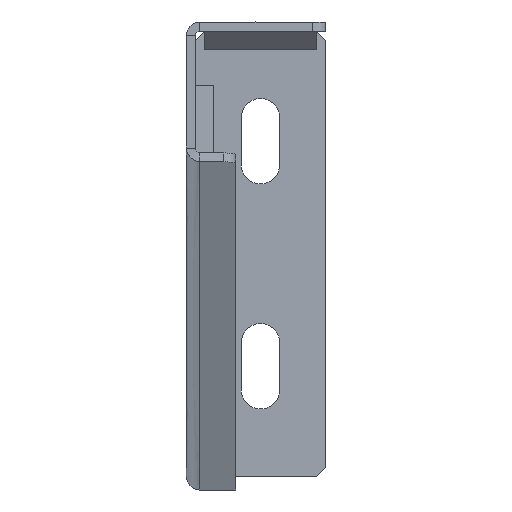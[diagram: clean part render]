
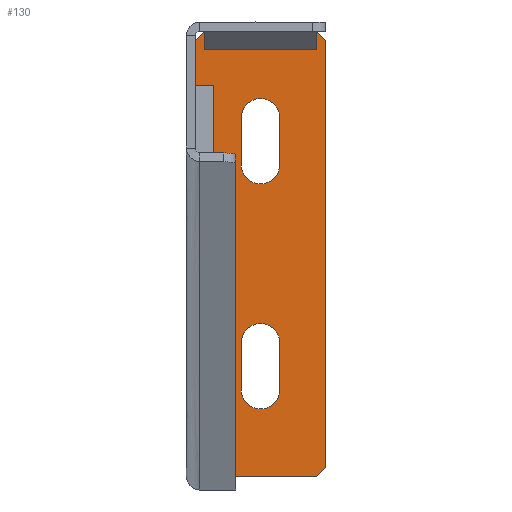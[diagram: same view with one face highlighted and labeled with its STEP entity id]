
A CAD part, front view. The second image highlights one B-rep face of the part: STEP entity #130.
In plain terms, the highlighted planar face has unit normal (0, -1, 0).
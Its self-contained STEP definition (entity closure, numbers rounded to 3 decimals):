
#21=FACE_BOUND('',#271,.T.);
#22=FACE_BOUND('',#272,.T.);
#31=(
BOUNDED_CURVE()
B_SPLINE_CURVE(2,(#1481,#1482,#1483,#1484,#1485),.UNSPECIFIED.,.F.,.F.)
B_SPLINE_CURVE_WITH_KNOTS((3,2,3),(37.204,43.879,50.555),
 .UNSPECIFIED.)
CURVE()
GEOMETRIC_REPRESENTATION_ITEM()
RATIONAL_B_SPLINE_CURVE((1.,0.707,1.,0.707,1.))
REPRESENTATION_ITEM('')
);
#32=(
BOUNDED_CURVE()
B_SPLINE_CURVE(2,(#1488,#1489,#1490,#1491,#1492),.UNSPECIFIED.,.F.,.F.)
B_SPLINE_CURVE_WITH_KNOTS((3,2,3),(13.352,20.028,26.704),
 .UNSPECIFIED.)
CURVE()
GEOMETRIC_REPRESENTATION_ITEM()
RATIONAL_B_SPLINE_CURVE((1.,0.707,1.,0.707,1.))
REPRESENTATION_ITEM('')
);
#35=(
BOUNDED_CURVE()
B_SPLINE_CURVE(2,(#1517,#1518,#1519,#1520,#1521),.UNSPECIFIED.,.F.,.F.)
B_SPLINE_CURVE_WITH_KNOTS((3,2,3),(37.204,43.879,50.555),
 .UNSPECIFIED.)
CURVE()
GEOMETRIC_REPRESENTATION_ITEM()
RATIONAL_B_SPLINE_CURVE((1.,0.707,1.,0.707,1.))
REPRESENTATION_ITEM('')
);
#36=(
BOUNDED_CURVE()
B_SPLINE_CURVE(2,(#1524,#1525,#1526,#1527,#1528),.UNSPECIFIED.,.F.,.F.)
B_SPLINE_CURVE_WITH_KNOTS((3,2,3),(13.352,20.028,26.704),
 .UNSPECIFIED.)
CURVE()
GEOMETRIC_REPRESENTATION_ITEM()
RATIONAL_B_SPLINE_CURVE((1.,0.707,1.,0.707,1.))
REPRESENTATION_ITEM('')
);
#130=ADVANCED_FACE('',(#199,#21,#22),#1039,.T.);
#199=FACE_OUTER_BOUND('',#270,.T.);
#270=EDGE_LOOP('',(#425,#426,#427,#428,#429,#430,#431,#432));
#271=EDGE_LOOP('',(#433,#434,#435,#436));
#272=EDGE_LOOP('',(#437,#438,#439,#440));
#425=ORIENTED_EDGE('',*,*,#674,.T.);
#426=ORIENTED_EDGE('',*,*,#678,.T.);
#427=ORIENTED_EDGE('',*,*,#681,.T.);
#428=ORIENTED_EDGE('',*,*,#684,.T.);
#429=ORIENTED_EDGE('',*,*,#687,.T.);
#430=ORIENTED_EDGE('',*,*,#690,.T.);
#431=ORIENTED_EDGE('',*,*,#693,.T.);
#432=ORIENTED_EDGE('',*,*,#695,.T.);
#433=ORIENTED_EDGE('',*,*,#703,.T.);
#434=ORIENTED_EDGE('',*,*,#702,.T.);
#435=ORIENTED_EDGE('',*,*,#701,.T.);
#436=ORIENTED_EDGE('',*,*,#700,.T.);
#437=ORIENTED_EDGE('',*,*,#715,.T.);
#438=ORIENTED_EDGE('',*,*,#714,.T.);
#439=ORIENTED_EDGE('',*,*,#713,.T.);
#440=ORIENTED_EDGE('',*,*,#712,.T.);
#674=EDGE_CURVE('',#934,#933,#835,.T.);
#678=EDGE_CURVE('',#933,#936,#839,.T.);
#681=EDGE_CURVE('',#936,#938,#842,.T.);
#684=EDGE_CURVE('',#938,#940,#845,.T.);
#687=EDGE_CURVE('',#940,#942,#848,.T.);
#690=EDGE_CURVE('',#942,#944,#851,.T.);
#693=EDGE_CURVE('',#944,#946,#854,.T.);
#695=EDGE_CURVE('',#946,#934,#856,.T.);
#700=EDGE_CURVE('',#951,#952,#859,.T.);
#701=EDGE_CURVE('',#953,#951,#31,.T.);
#702=EDGE_CURVE('',#954,#953,#860,.T.);
#703=EDGE_CURVE('',#952,#954,#32,.T.);
#712=EDGE_CURVE('',#959,#960,#867,.T.);
#713=EDGE_CURVE('',#961,#959,#35,.T.);
#714=EDGE_CURVE('',#962,#961,#868,.T.);
#715=EDGE_CURVE('',#960,#962,#36,.T.);
#835=B_SPLINE_CURVE_WITH_KNOTS('',1,(#1421,#1422),.UNSPECIFIED.,.F.,.F.,
(2,2),(-103.748,-100.919),.UNSPECIFIED.);
#839=B_SPLINE_CURVE_WITH_KNOTS('',1,(#1429,#1430),.UNSPECIFIED.,.F.,.F.,
(2,2),(-100.919,-2.081),.UNSPECIFIED.);
#842=B_SPLINE_CURVE_WITH_KNOTS('',1,(#1435,#1436),.UNSPECIFIED.,.F.,.F.,
(2,2),(-2.081,0.748),.UNSPECIFIED.);
#845=B_SPLINE_CURVE_WITH_KNOTS('',1,(#1441,#1442),.UNSPECIFIED.,.F.,.F.,
(2,2),(0.748,24.886),.UNSPECIFIED.);
#848=B_SPLINE_CURVE_WITH_KNOTS('',1,(#1447,#1448),.UNSPECIFIED.,.F.,.F.,
(2,2),(24.886,27.714),.UNSPECIFIED.);
#851=B_SPLINE_CURVE_WITH_KNOTS('',1,(#1453,#1454),.UNSPECIFIED.,.F.,.F.,
(2,2),(27.714,126.552),.UNSPECIFIED.);
#854=B_SPLINE_CURVE_WITH_KNOTS('',1,(#1459,#1460),.UNSPECIFIED.,.F.,.F.,
(2,2),(126.552,129.381),.UNSPECIFIED.);
#856=B_SPLINE_CURVE_WITH_KNOTS('',1,(#1463,#1464),.UNSPECIFIED.,.F.,.F.,
(2,2),(129.381,153.519),.UNSPECIFIED.);
#859=B_SPLINE_CURVE_WITH_KNOTS('',1,(#1479,#1480),.UNSPECIFIED.,.F.,.F.,
(2,2),(-79.75,-69.25),.UNSPECIFIED.);
#860=B_SPLINE_CURVE_WITH_KNOTS('',1,(#1486,#1487),.UNSPECIFIED.,.F.,.F.,
(2,2),(69.25,79.75),.UNSPECIFIED.);
#867=B_SPLINE_CURVE_WITH_KNOTS('',1,(#1515,#1516),.UNSPECIFIED.,.F.,.F.,
(2,2),(-29.75,-19.25),.UNSPECIFIED.);
#868=B_SPLINE_CURVE_WITH_KNOTS('',1,(#1522,#1523),.UNSPECIFIED.,.F.,.F.,
(2,2),(19.25,29.75),.UNSPECIFIED.);
#933=VERTEX_POINT('',#1387);
#934=VERTEX_POINT('',#1388);
#936=VERTEX_POINT('',#1390);
#938=VERTEX_POINT('',#1392);
#940=VERTEX_POINT('',#1394);
#942=VERTEX_POINT('',#1396);
#944=VERTEX_POINT('',#1398);
#946=VERTEX_POINT('',#1400);
#951=VERTEX_POINT('',#1405);
#952=VERTEX_POINT('',#1406);
#953=VERTEX_POINT('',#1407);
#954=VERTEX_POINT('',#1408);
#959=VERTEX_POINT('',#1413);
#960=VERTEX_POINT('',#1414);
#961=VERTEX_POINT('',#1415);
#962=VERTEX_POINT('',#1416);
#1039=PLANE('',#1176);
#1176=AXIS2_PLACEMENT_3D('',#1376,#1240,$);
#1240=DIRECTION('',(0.,-1.,0.));
#1376=CARTESIAN_POINT('',(36.376,-3.5,-47.256));
#1387=CARTESIAN_POINT('',(32.751,-3.5,-156.631));
#1388=CARTESIAN_POINT('',(30.751,-3.5,-158.631));
#1390=CARTESIAN_POINT('',(32.751,-3.5,-61.631));
#1392=CARTESIAN_POINT('',(30.751,-3.5,-59.631));
#1394=CARTESIAN_POINT('',(5.751,-3.5,-59.631));
#1396=CARTESIAN_POINT('',(3.751,-3.5,-61.631));
#1398=CARTESIAN_POINT('',(3.751,-3.5,-156.631));
#1400=CARTESIAN_POINT('',(5.751,-3.5,-158.631));
#1405=CARTESIAN_POINT('',(22.501,-3.5,-78.881));
#1406=CARTESIAN_POINT('',(22.501,-3.5,-89.381));
#1407=CARTESIAN_POINT('',(14.001,-3.5,-78.881));
#1408=CARTESIAN_POINT('',(14.001,-3.5,-89.381));
#1413=CARTESIAN_POINT('',(22.501,-3.5,-128.881));
#1414=CARTESIAN_POINT('',(22.501,-3.5,-139.381));
#1415=CARTESIAN_POINT('',(14.001,-3.5,-128.881));
#1416=CARTESIAN_POINT('',(14.001,-3.5,-139.381));
#1421=CARTESIAN_POINT('',(30.751,-3.5,-158.631));
#1422=CARTESIAN_POINT('',(32.751,-3.5,-156.631));
#1429=CARTESIAN_POINT('',(32.751,-3.5,-156.631));
#1430=CARTESIAN_POINT('',(32.751,-3.5,-61.631));
#1435=CARTESIAN_POINT('',(32.751,-3.5,-61.631));
#1436=CARTESIAN_POINT('',(30.751,-3.5,-59.631));
#1441=CARTESIAN_POINT('',(30.751,-3.5,-59.631));
#1442=CARTESIAN_POINT('',(5.751,-3.5,-59.631));
#1447=CARTESIAN_POINT('',(5.751,-3.5,-59.631));
#1448=CARTESIAN_POINT('',(3.751,-3.5,-61.631));
#1453=CARTESIAN_POINT('',(3.751,-3.5,-61.631));
#1454=CARTESIAN_POINT('',(3.751,-3.5,-156.631));
#1459=CARTESIAN_POINT('',(3.751,-3.5,-156.631));
#1460=CARTESIAN_POINT('',(5.751,-3.5,-158.631));
#1463=CARTESIAN_POINT('',(5.751,-3.5,-158.631));
#1464=CARTESIAN_POINT('',(30.751,-3.5,-158.631));
#1479=CARTESIAN_POINT('',(22.501,-3.5,-78.881));
#1480=CARTESIAN_POINT('',(22.501,-3.5,-89.381));
#1481=CARTESIAN_POINT('',(14.001,-3.5,-78.881));
#1482=CARTESIAN_POINT('',(14.001,-3.5,-74.631));
#1483=CARTESIAN_POINT('',(18.251,-3.5,-74.631));
#1484=CARTESIAN_POINT('',(22.501,-3.5,-74.631));
#1485=CARTESIAN_POINT('',(22.501,-3.5,-78.881));
#1486=CARTESIAN_POINT('',(14.001,-3.5,-89.381));
#1487=CARTESIAN_POINT('',(14.001,-3.5,-78.881));
#1488=CARTESIAN_POINT('',(22.501,-3.5,-89.381));
#1489=CARTESIAN_POINT('',(22.501,-3.5,-93.631));
#1490=CARTESIAN_POINT('',(18.251,-3.5,-93.631));
#1491=CARTESIAN_POINT('',(14.001,-3.5,-93.631));
#1492=CARTESIAN_POINT('',(14.001,-3.5,-89.381));
#1515=CARTESIAN_POINT('',(22.501,-3.5,-128.881));
#1516=CARTESIAN_POINT('',(22.501,-3.5,-139.381));
#1517=CARTESIAN_POINT('',(14.001,-3.5,-128.881));
#1518=CARTESIAN_POINT('',(14.001,-3.5,-124.631));
#1519=CARTESIAN_POINT('',(18.251,-3.5,-124.631));
#1520=CARTESIAN_POINT('',(22.501,-3.5,-124.631));
#1521=CARTESIAN_POINT('',(22.501,-3.5,-128.881));
#1522=CARTESIAN_POINT('',(14.001,-3.5,-139.381));
#1523=CARTESIAN_POINT('',(14.001,-3.5,-128.881));
#1524=CARTESIAN_POINT('',(22.501,-3.5,-139.381));
#1525=CARTESIAN_POINT('',(22.501,-3.5,-143.631));
#1526=CARTESIAN_POINT('',(18.251,-3.5,-143.631));
#1527=CARTESIAN_POINT('',(14.001,-3.5,-143.631));
#1528=CARTESIAN_POINT('',(14.001,-3.5,-139.381));
